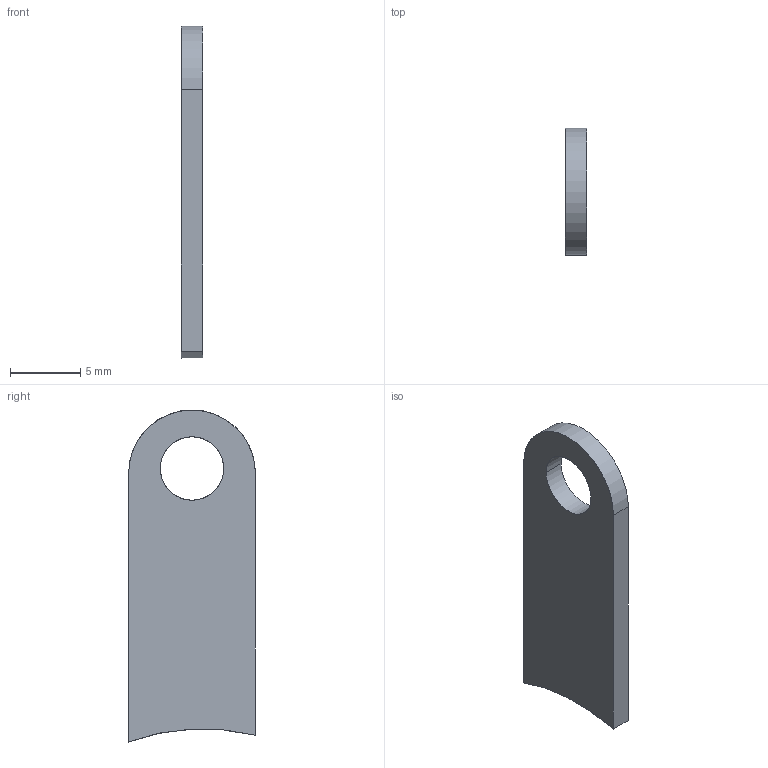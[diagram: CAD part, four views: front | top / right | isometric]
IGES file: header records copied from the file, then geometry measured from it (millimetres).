
Start section: START RECORD GO HERE.
Global section: file name: 20M_ST_0701_01 (chape droite cache cremaillere).igs; native system: IBM CATIA IGES - CATIA Version 5 Release 19 ; preprocessor: CATIA Version 5 Release 19 ; author: Martin Kawczynski; organization: DESKTOP-UDLM1FC; date: 20200123.121412; units: millimetre
Bounding box: 1.5 x 9 x 23.55 mm (x, y, z)
Surface area: 474.9 mm2 (no closed solid volume)
Topology: 0 solids, 0 shells, 8 faces, 36 edges, 37 vertices
Faces by surface type: plane 4, revolution 3, extrusion 1
